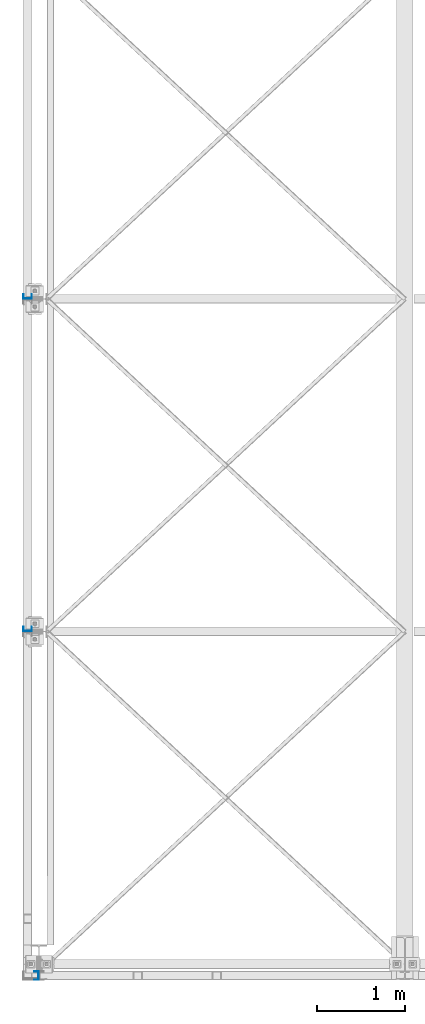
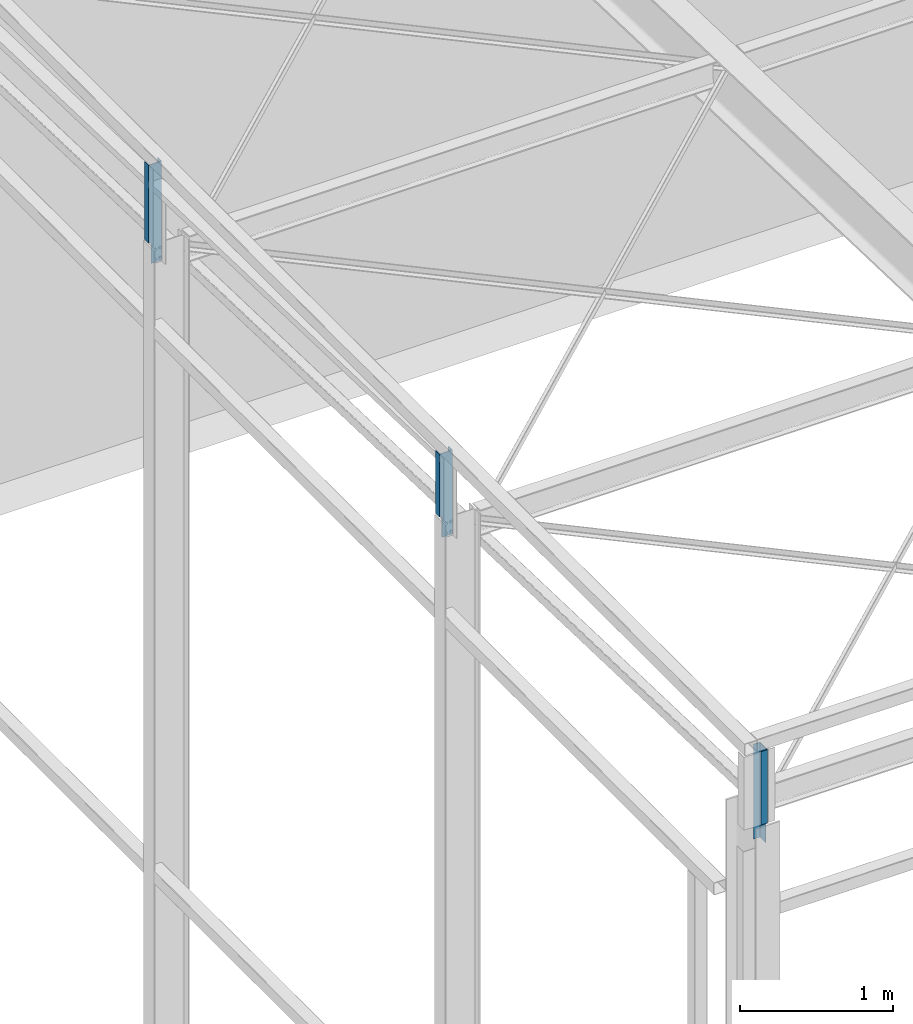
# One storey, part 16 of 123: 3 columns, 3 elements without a shape of their own.
"""IFC2X3 building model written with IfcOpenShell, lengths in millimetres."""

from ifc_helpers import new_model, si_unit, frame, origin_with_axes, origin_2d_with_axis, place, context, subcontext, project, spatial, polyline, u_section, outline, extrude, boolean, material, type_object, element, aggregate, save


model = new_model("IFC2X3")

# Units and contexts
model_context = context("Model", 3, precision=1e-05, world=origin_with_axes())
body_context = subcontext(model_context, "Body", "Model", "MODEL_VIEW")
ifc_project = project(units=[si_unit("LENGTHUNIT", "METRE", prefix="MILLI"), si_unit("AREAUNIT", "SQUARE_METRE"), si_unit("VOLUMEUNIT", "CUBIC_METRE"), si_unit("MASSUNIT", "GRAM", prefix="KILO"), si_unit("TIMEUNIT", "SECOND"), si_unit("PLANEANGLEUNIT", "RADIAN"), si_unit("SOLIDANGLEUNIT", "STERADIAN"), si_unit("THERMODYNAMICTEMPERATUREUNIT", "DEGREE_CELSIUS"), si_unit("LUMINOUSINTENSITYUNIT", "LUMEN")], contexts=[model_context])

# Site, building, storey
site_placement = place(None, origin_with_axes())
site = spatial("IfcSite", under=ifc_project, at=site_placement, Name="Undefined", CompositionType="ELEMENT")
building_placement = place(site_placement, origin_with_axes())
building = spatial("IfcBuilding", under=site, at=building_placement, Name="Undefined", CompositionType="ELEMENT")
storey_placement = place(building_placement, origin_with_axes())
storey = spatial("IfcBuildingStorey", under=building, at=storey_placement, Name="Undefined", CompositionType="ELEMENT", Elevation=0.0)

# Assembly, column
assembly_1_placement = place(storey_placement, origin_with_axes())
assembly_1 = element("IfcElementAssembly", 1, at=assembly_1_placement, inside=storey, Name="Steel Assembly", AssemblyPlace="NOTDEFINED", PredefinedType="RIGID_FRAME")
ifc_material = material(Name="STEEL/S235-E24")
column_type = type_object("IfcColumnType", Name="UPF-100*50*4", PredefinedType="NOTDEFINED")
column_1_placement = place(assembly_1_placement, frame((-28.2999922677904, -130.000001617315, 7690.00293066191), z_axis=(0.0, 0.0, 1.0), x_axis=(0.0, 1.0, 0.0)))
column_1 = element("IfcColumn", 2, at=column_1_placement, type_object=column_type, material=ifc_material, Name="BAIONNETTE", ObjectType="UPF-100*50*4", context=body_context, shape_type="CSG", body=[
    boolean("DIFFERENCE", extrude(u_section(Depth=100.0, FlangeWidth=50.0, WebThickness=4.0, FlangeThickness=4.0, at=origin_2d_with_axis()), frame((0.0, 0.0, 754.998684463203), z_axis=(0.0, 0.0, -1.0), x_axis=(0.0, 1.0, 0.0)), (0.0, 0.0, 1.0), 755.0), extrude(outline(polyline([(0.0, 0.0), (19.999999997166, 0.0), (19.999999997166, 170.0), (-2.84853740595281e-09, 170.0), (0.0, 0.0)])), frame((-50.0000064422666, -27.5000100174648, 170.000083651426), z_axis=(0.0, 1.0, 0.0), x_axis=(1.0, 0.0, 0.0)), (0.0, 0.0, 1.0), 55.0)),
])
aggregate(assembly_1, [column_1])

assembly_2_placement = place(storey_placement, origin_with_axes())
assembly_2 = element("IfcElementAssembly", 3, at=assembly_2_placement, inside=storey, Name="Steel Assembly", AssemblyPlace="NOTDEFINED", PredefinedType="RIGID_FRAME")
column_2_placement = place(assembly_2_placement, frame((-130.000001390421, 3828.2999999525, 7774.99908228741), z_axis=(0.0, 0.0, 1.0), x_axis=(1.0, 0.0, 0.0)))
column_2 = element("IfcColumn", 4, at=column_2_placement, type_object=column_type, material=ifc_material, Name="BAIONNETTE", ObjectType="UPF-100*50*4", context=body_context, shape_type="CSG", body=[
    boolean("DIFFERENCE", extrude(u_section(Depth=100.0, FlangeWidth=50.0, WebThickness=4.0, FlangeThickness=4.0, at=origin_2d_with_axis()), frame((0.0, 0.0, 669.998684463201), z_axis=(0.0, 0.0, -1.0), x_axis=(0.0, 1.0, 0.0)), (0.0, 0.0, 1.0), 670.0), extrude(outline(polyline([(0.0, 0.0), (19.999999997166, 0.0), (19.999999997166, 170.0), (-2.84853740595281e-09, 170.0), (0.0, 0.0)])), frame((-50.0000064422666, -27.5000100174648, 170.000083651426), z_axis=(0.0, 1.0, 0.0), x_axis=(1.0, 0.0, 0.0)), (0.0, 0.0, 1.0), 55.0)),
])
aggregate(assembly_2, [column_2])

assembly_3_placement = place(storey_placement, origin_with_axes())
assembly_3 = element("IfcElementAssembly", 5, at=assembly_3_placement, inside=storey, Name="Steel Assembly", AssemblyPlace="NOTDEFINED", PredefinedType="RIGID_FRAME")
column_3_placement = place(assembly_3_placement, frame((-130.000001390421, 7628.29999998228, 7655.0002847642), z_axis=(0.0, 0.0, 1.0), x_axis=(1.0, 0.0, 0.0)))
column_3 = element("IfcColumn", 6, at=column_3_placement, type_object=column_type, material=ifc_material, Name="BAIONNETTE", ObjectType="UPF-100*50*4", context=body_context, shape_type="CSG", body=[
    boolean("DIFFERENCE", extrude(u_section(Depth=100.0, FlangeWidth=50.0, WebThickness=4.0, FlangeThickness=4.0, at=origin_2d_with_axis()), frame((0.0, 0.0, 789.998684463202), z_axis=(0.0, 0.0, -1.0), x_axis=(0.0, 1.0, 0.0)), (0.0, 0.0, 1.0), 790.0), extrude(outline(polyline([(0.0, 0.0), (19.999999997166, 0.0), (19.999999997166, 170.0), (-2.84853740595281e-09, 170.0), (0.0, 0.0)])), frame((-50.0000000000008, -27.5000000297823, 170.000125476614), z_axis=(0.0, 1.0, 0.0), x_axis=(1.0, 0.0, 0.0)), (0.0, 0.0, 1.0), 55.0)),
])
aggregate(assembly_3, [column_3])

save(model, "model.ifc")
